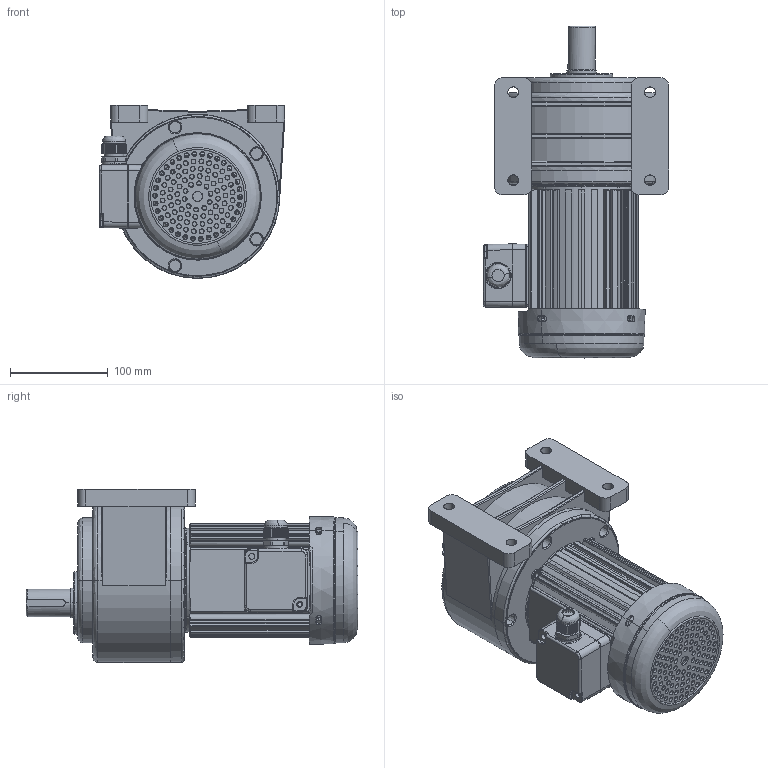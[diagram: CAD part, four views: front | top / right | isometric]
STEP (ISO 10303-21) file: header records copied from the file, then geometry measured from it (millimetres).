
FILE_DESCRIPTION (( 'STEP AP203' ), '1' );
FILE_NAME ('200W配3#卧式.STEP', '2019-06-14T06:52:02', ( '微软中国' ), ( '微软用户' ), 'SwSTEP 2.0', 'SolidWorks 2012', '' );
FILE_SCHEMA (( 'CONFIG_CONTROL_DESIGN' ));
Length unit declared in the file: millimetre
Products named in the file (10): 200W饜3#拏宒; 3#拏宒熬厒ん; 3xg200w; 200W 儂褲2; 坶踡ん 蚾饜; 苤諉盄碟 裔; 苤諉盄碟釱; 釱菜; 100W瑞欶; 100W綴傷裔 2_25
Assembly tree (9 placements, depth 2):
  200W饜3#拏宒
    100W綴傷裔 2_25
    100W瑞欶
    釱菜
    苤諉盄碟釱
    苤諉盄碟 裔
    坶踡ん 蚾饜
    200W 儂褲2
    3xg200w
    3#拏宒熬厒ん
Bounding box: 189.46 x 339.57 x 177 mm (x, y, z)
Volume: 2794449.6 mm3; surface area: 524546 mm2
Topology: 6 solids, 14 shells, 2406 faces, 6308 edges, 3979 vertices
Faces by surface type: cylinder 723, bspline 702, plane 604, torus 190, cone 187
Entity records: 115668 total; most frequent: CARTESIAN_POINT 61079, ORIENTED_EDGE 12522, DIRECTION 9092, EDGE_CURVE 6291, VERTEX_POINT 3979, AXIS2_PLACEMENT_3D 3465, EDGE_LOOP 2779, ADVANCED_FACE 2406
